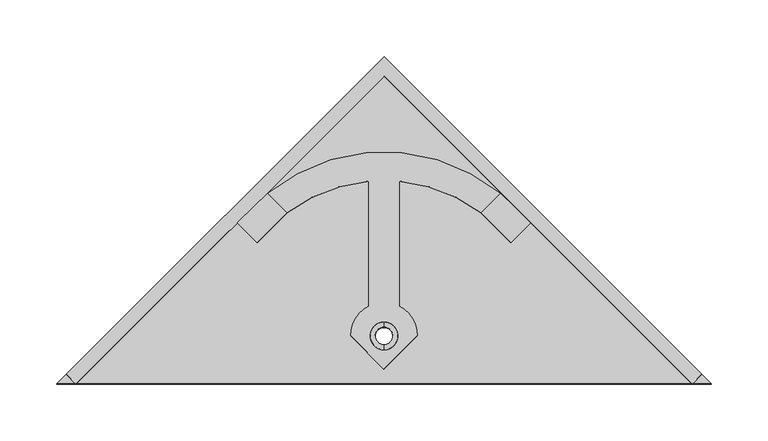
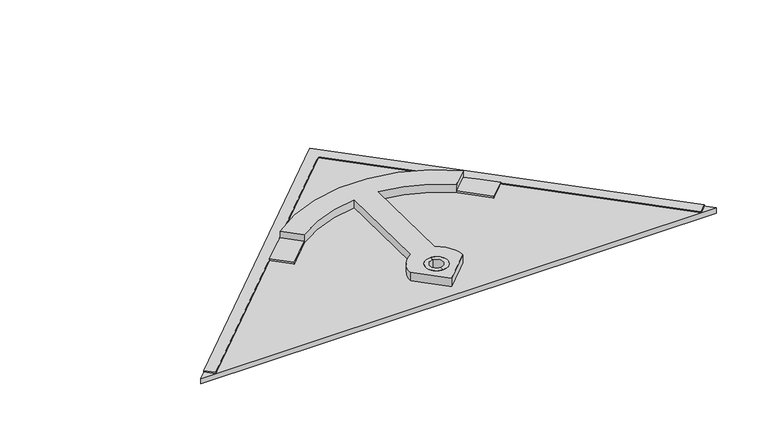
"""IFC4 building model written with IfcOpenShell, lengths in millimetres: proxy geometry, Roofing_Panels_SunStyle_Tuile_Basse-Petite : Tuile Basse Petite - Noir."""

from ifc_helpers import new_model, si_unit, point, frame, frame_2d, origin, place, context, project, spatial, polyline, circle_curve, trimmed, segment, composite_curve, outline, extrude, source, transform, mapped, element, save
from ifc_brep_helpers import plane_surface, cylinder_surface, revolved_surface, advanced_brep


def generic_models_441e44e2(model_context):
    return source(origin(), model_context, "Body", "SolidModel", [
        advanced_brep(
        [(0.0, 361.8961325, 20.2441668), (0.0, 377.2289335, 19.9873805), (0.0, 381.7283021, 19.9120273), (0.0, 357.3967639, 20.31952), (0.0, 361.6282103, 4.2464102), (0.0, 376.9610105, 3.9896239), (0.0, 357.1288413, 4.3217634), (0.0, 381.4603795, 3.9142707)],
        [
            (0, 1, circle_curve(frame((0.0, 369.562533, 20.1157737), z_axis=(0.0, -0.016745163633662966, -0.9998597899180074), x_axis=(0.0, 0.9998597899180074, -0.016745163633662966)), 7.6674755)),
            (1, 2),
            (2, 3, circle_curve(frame((0.0, 369.562533, 20.1157737), z_axis=(0.0, 0.016745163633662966, 0.9998597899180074), x_axis=(0.0, 0.9998597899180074, -0.016745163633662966)), 12.1674751)),
            (3, 0),
            (1, 0, circle_curve(frame((0.0, 369.562533, 20.1157737), z_axis=(0.0, -0.016745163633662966, -0.9998597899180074), x_axis=(0.0, 0.9998597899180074, -0.016745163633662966)), 7.6674755)),
            (3, 2, circle_curve(frame((0.0, 369.562533, 20.1157737), z_axis=(0.0, 0.016745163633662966, 0.9998597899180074), x_axis=(0.0, 0.9998597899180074, -0.016745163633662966)), 12.1674751)),
            (4, 5, circle_curve(frame((0.0, 369.2946104, 4.118017), z_axis=(0.0, -0.016745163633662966, -0.9998597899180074), x_axis=(0.0, 0.9998597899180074, -0.016745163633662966)), 7.6674751)),
            (5, 1),
            (0, 4),
            (5, 4, circle_curve(frame((0.0, 369.2946104, 4.118017), z_axis=(0.0, -0.016745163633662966, -0.9998597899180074), x_axis=(0.0, 0.9998597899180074, -0.016745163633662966)), 7.6674751)),
            (6, 7, circle_curve(frame((0.0, 369.2946104, 4.118017), z_axis=(0.0, -0.016745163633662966, -0.9998597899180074), x_axis=(0.0, 0.9998597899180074, -0.016745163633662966)), 12.1674751)),
            (7, 5),
            (4, 6),
            (7, 6, circle_curve(frame((0.0, 369.2946104, 4.118017), z_axis=(0.0, -0.016745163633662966, -0.9998597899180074), x_axis=(0.0, 0.9998597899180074, -0.016745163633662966)), 12.1674751)),
            (2, 7),
            (6, 3),
        ],
        [
            plane_surface(frame((0.0, 369.562533, 20.1157737), z_axis=(0.0, 0.016745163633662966, 0.9998597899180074), x_axis=(0.0, 0.9998597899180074, -0.016745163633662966))),
            revolved_surface(polyline([(0.0, 377.2289330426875, 19.987380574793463), (0.0, 376.96101042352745, 3.989623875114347)]), (0.0, 369.562533, 20.1157737), (0.0, 0.016745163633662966, 0.9998597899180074)),
            plane_surface(frame((0.0, 369.2946104, 4.118017), z_axis=(0.0, -0.016745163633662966, -0.9998597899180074), x_axis=(0.0, 0.9998597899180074, -0.016745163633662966))),
            cylinder_surface(frame((0.0, 369.562533, 20.1157737), z_axis=(0.0, 0.016745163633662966, 0.9998597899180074), x_axis=(0.0, 0.9998597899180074, -0.016745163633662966)), 12.1674751),
        ],
        [
            (0, [[1, 2, 3, 4]]),
            (0, [[5, -4, 6, -2]]),
            (1, [[7, 8, -1, 9]]),
            (1, [[10, -9, -5, -8]]),
            (2, [[11, 12, -7, 13]]),
            (2, [[14, -13, -10, -12]]),
            (3, [[-3, 15, -11, 16]]),
            (3, [[-6, -16, -14, -15]]),
        ],
    ),
        extrude(outline(polyline([(0.0, -11.9999999), (0.0, 0.0), (383.0016826, 0.0), (383.055387, 383.0016788), (395.0553869, 382.9999962), (395.0000001, -12.0), (0.0, -11.9999999)])), frame((270.8423962, 327.2499642, 10.8230016), z_axis=(0.0, 0.016745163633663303, 0.9998597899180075), x_axis=(-0.7071563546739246, 0.706958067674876, -0.011839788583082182)), (0.0, 0.0, 1.0), 1.5),
        extrude(outline(polyline([(995.0941908, 0.0), (995.1512303, -406.7858697), (588.3083171, 1e-07), (995.0941908, 0.0)]), holes=[composite_curve([segment(trimmed(circle_curve(frame_2d((821.5432581, -173.5748135)), 12.0), [point((813.0573819, -165.0901271))], [point((830.0291344, -182.0595))], True, "CARTESIAN"), True, "CONTINUOUS"), segment(trimmed(circle_curve(frame_2d((821.5432581, -173.5748135)), 12.0), [point((830.0291344, -182.0595))], [point((813.0573819, -165.0901271))], True, "CARTESIAN"), True, "CONTINUOUS")], self_intersect=False)]), frame((-703.686858, -88.6072499, 11.7867338), z_axis=(0.0, 0.01674516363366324, 0.9998597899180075), x_axis=(0.7071563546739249, 0.7069580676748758, -0.011839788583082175)), (0.0, 0.0, 1.0), 6.0),
        advanced_brep(
        [(-102.0275718, 494.9998575, 18.0150106), (-84.944396, 477.9190769, 18.3010712), (-13.3, 505.8109871, 17.8339511), (-13.3, 395.9341043, 19.6741155), (-29.3894281, 369.7299846, 20.1129693), (0.0, 340.3446773, 20.6051), (29.3894281, 369.7299846, 20.1129693), (13.3, 395.9341043, 19.6741155), (13.3, 505.8109871, 17.8339511), (84.944396, 477.9190769, 18.3010712), (102.0275718, 494.9998575, 18.0150106), (-12.0, 369.7299846, 20.1129693), (12.0, 369.7299846, 20.1129693), (-102.0275718, 494.8324058, 8.0164127), (102.0275718, 494.8324058, 8.0164127), (114.2509691, 483.797483, 8.2012202), (128.9467134, 469.1058594, 8.4472683), (111.2690438, 451.4306685, 8.7432838), (84.9431983, 477.7528228, 8.3024532), (13.3, 505.6435355, 7.8353532), (13.3, 395.7666527, 9.6755176), (29.3894281, 369.562533, 10.1143714), (0.0, 340.1772257, 10.6065021), (-29.3894281, 369.562533, 10.1143714), (-13.3, 395.7666527, 9.6755176), (-13.3, 505.6435355, 7.8353532), (-84.944396, 477.7516253, 8.3024733), (-111.2690438, 451.4306685, 8.7432838), (-128.9467134, 469.1058594, 8.4472683), (-114.2509691, 483.797483, 8.2012202), (-12.0, 369.562533, 10.1143714), (12.0, 369.562533, 10.1143714), (102.0275718, 494.8742688, 10.5160622), (-102.0275718, 494.8742688, 10.5160622), (128.9467134, 469.1477223, 10.9469178), (114.2509691, 483.8393459, 10.7008697), (84.944396, 477.7934882, 10.8021227), (111.2690438, 451.4725314, 11.2429333), (-128.9467134, 469.1477223, 10.9469178), (-111.2690438, 451.4725314, 11.2429333), (-84.9431983, 477.7946858, 10.8021027), (-114.2509691, 483.8393459, 10.7008697)],
        [
            (0, 1),
            (1, 2, circle_curve(frame((0.0, 365.7229584, 20.180077), z_axis=(0.0, -0.01674516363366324, -0.9998597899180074), x_axis=(1.0, 0.0, 0.0)), 140.737522)),
            (2, 3),
            (3, 4, circle_curve(frame((0.0, 369.7299846, 20.1129693), z_axis=(0.0, 0.01674516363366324, 0.9998597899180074), x_axis=(1.0, 0.0, 0.0)), 29.3894281)),
            (4, 5),
            (5, 6),
            (6, 7, circle_curve(frame((0.0, 369.7299846, 20.1129693), z_axis=(0.0, 0.01674516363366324, 0.9998597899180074), x_axis=(1.0, 0.0, 0.0)), 29.3894281)),
            (7, 8),
            (8, 9, circle_curve(frame((0.0, 365.7229584, 20.180077), z_axis=(0.0, -0.01674516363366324, -0.9998597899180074), x_axis=(1.0, 0.0, 0.0)), 140.737522)),
            (9, 10),
            (10, 0, circle_curve(frame((0.0, 369.7299846, 20.1129693), z_axis=(0.0, 0.01674516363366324, 0.9998597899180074), x_axis=(1.0, 0.0, 0.0)), 161.57527)),
            (11, 12, circle_curve(frame((0.0, 369.7299846, 20.1129693), z_axis=(0.0, -0.01674516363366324, -0.9998597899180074), x_axis=(1.0, 0.0, 0.0)), 12.0)),
            (12, 11, circle_curve(frame((0.0, 369.7299846, 20.1129693), z_axis=(0.0, -0.01674516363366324, -0.9998597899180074), x_axis=(1.0, 0.0, 0.0)), 12.0)),
            (13, 14, circle_curve(frame((0.0, 369.562533, 10.1143714), z_axis=(0.0, -0.01674516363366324, -0.9998597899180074), x_axis=(1.0, 0.0, 0.0)), 161.57527)),
            (14, 15, circle_curve(frame((0.0, 369.562533, 10.1143714), z_axis=(0.0, -0.01674516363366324, -0.9998597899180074), x_axis=(1.0, 0.0, 0.0)), 161.57527)),
            (15, 16),
            (16, 17),
            (17, 18),
            (18, 19, circle_curve(frame((0.0, 365.5555068, 10.1814791), z_axis=(0.0, 0.01674516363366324, 0.9998597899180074), x_axis=(1.0, 0.0, 0.0)), 140.737522)),
            (19, 20),
            (20, 21, circle_curve(frame((0.0, 369.562533, 10.1143714), z_axis=(0.0, -0.01674516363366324, -0.9998597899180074), x_axis=(1.0, 0.0, 0.0)), 29.3894281)),
            (21, 22),
            (22, 23),
            (23, 24, circle_curve(frame((0.0, 369.562533, 10.1143714), z_axis=(0.0, -0.01674516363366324, -0.9998597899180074), x_axis=(1.0, 0.0, 0.0)), 29.3894281)),
            (24, 25),
            (25, 26, circle_curve(frame((0.0, 365.5555068, 10.1814791), z_axis=(0.0, 0.01674516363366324, 0.9998597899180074), x_axis=(1.0, 0.0, 0.0)), 140.737522)),
            (26, 27),
            (27, 28),
            (28, 29),
            (29, 13, circle_curve(frame((0.0, 369.562533, 10.1143714), z_axis=(0.0, -0.01674516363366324, -0.9998597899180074), x_axis=(-1.0, 0.0, 0.0)), 161.57527)),
            (30, 31, circle_curve(frame((0.0, 369.562533, 10.1143714), z_axis=(0.0, 0.01674516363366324, 0.9998597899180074), x_axis=(1.0, 0.0, 0.0)), 12.0)),
            (31, 30, circle_curve(frame((0.0, 369.562533, 10.1143714), z_axis=(0.0, 0.01674516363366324, 0.9998597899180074), x_axis=(1.0, 0.0, 0.0)), 12.0)),
            (2, 25),
            (24, 3),
            (23, 4),
            (22, 5),
            (21, 6),
            (20, 7),
            (19, 8),
            (10, 32),
            (32, 14),
            (13, 33),
            (33, 0),
            (11, 30),
            (31, 12),
            (34, 35),
            (35, 32, circle_curve(frame((0.0, 369.6043959, 12.6140208), z_axis=(0.0, 0.01674516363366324, 0.9998597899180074), x_axis=(1.0, 0.0, 0.0)), 161.57527)),
            (32, 36),
            (36, 37),
            (37, 34),
            (38, 39),
            (39, 40),
            (40, 33),
            (33, 41, circle_curve(frame((0.0, 369.6043959, 12.6140208), z_axis=(0.0, 0.01674516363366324, 0.9998597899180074), x_axis=(-1.0, 0.0, 0.0)), 161.57527)),
            (41, 38),
            (34, 16),
            (15, 35),
            (37, 17),
            (36, 18),
            (38, 28),
            (27, 39),
            (26, 40),
            (29, 41),
            (40, 1),
            (9, 36),
        ],
        [
            plane_surface(frame((-102.0275718, 494.9998575, 18.0150106), z_axis=(0.0, 0.01674516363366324, 0.9998597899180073), x_axis=(0.7071067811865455, -0.7070076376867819, 0.011840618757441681))),
            plane_surface(frame((-102.0275718, 494.8324058, 8.0164127), z_axis=(0.0, -0.01674516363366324, -0.9998597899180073), x_axis=(-0.7071067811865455, 0.7070076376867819, -0.011840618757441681))),
            plane_surface(frame((-13.3, 505.8109871, 17.8339511), z_axis=(-1.0000000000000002, 0.0, 0.0), x_axis=(0.0, -0.01674516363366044, -0.9998597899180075))),
            cylinder_surface(frame((0.0, 369.562533, 10.1143714), z_axis=(0.0, 0.01674516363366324, 0.9998597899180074), x_axis=(1.0, 0.0, 0.0)), 29.3894281),
            plane_surface(frame((-29.3894281, 369.7299846, 20.1129693), z_axis=(-0.7071067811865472, -0.7070076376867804, 0.011840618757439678), x_axis=(0.0, -0.016745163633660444, -0.9998597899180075))),
            plane_surface(frame((0.0, 340.3446773, 20.6051), z_axis=(0.7071067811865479, -0.7070076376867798, 0.011840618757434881), x_axis=(0.0, -0.01674516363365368, -0.9998597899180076))),
            plane_surface(frame((13.3, 395.9341043, 19.6741155), z_axis=(1.0000000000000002, 0.0, 0.0), x_axis=(0.0, -0.016745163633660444, -0.9998597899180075))),
            cylinder_surface(frame((0.0, 369.562533, 10.1143714), z_axis=(0.0, 0.01674516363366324, 0.9998597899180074), x_axis=(1.0, 0.0, 0.0)), 161.57527),
            revolved_surface(polyline([(12.0, 369.562533, 10.1143714), (12.0, 369.72998463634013, 20.112969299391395)]), (0.0, 369.562533, 10.1143714), (0.0, -0.01674516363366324, -0.9998597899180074)),
            plane_surface(frame((128.9467134, 469.1477223, 10.9469178), z_axis=(0.0, 0.01674516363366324, 0.9998597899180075), x_axis=(-0.7071563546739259, 0.7069580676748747, -0.011839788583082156))),
            plane_surface(frame((128.9467134, 469.1477223, 10.9469178), z_axis=(0.7070572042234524, 0.7070572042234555, -0.011841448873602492), x_axis=(0.0, -0.016745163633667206, -0.9998597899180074))),
            plane_surface(frame((111.2690438, 451.4725314, 11.2429333), z_axis=(0.7071067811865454, -0.7070076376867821, 0.011840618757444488), x_axis=(0.0, -0.016745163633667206, -0.9998597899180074))),
            plane_surface(frame((84.9431983, 477.7946858, 10.8021027), z_axis=(-0.7071067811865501, -0.7070076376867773, 0.011840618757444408), x_axis=(0.0, -0.016745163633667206, -0.9998597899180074))),
            plane_surface(frame((-128.9467134, 469.1477223, 10.9469178), z_axis=(-0.7071067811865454, -0.7070076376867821, 0.011840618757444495), x_axis=(0.0, -0.016745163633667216, -0.9998597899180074))),
            plane_surface(frame((-111.2690438, 451.4725314, 11.2429333), z_axis=(0.7071067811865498, -0.7070076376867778, 0.011840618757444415), x_axis=(0.0, -0.016745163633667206, -0.9998597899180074))),
            cylinder_surface(frame((0.0, 369.562533, 10.1143714), z_axis=(0.0, 0.01674516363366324, 0.9998597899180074), x_axis=(-1.0, 0.0, 0.0)), 161.57527),
            plane_surface(frame((-114.2509691, 483.8393459, 10.7008697), z_axis=(-0.7070572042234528, 0.7070572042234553, -0.011841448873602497), x_axis=(0.0, -0.016745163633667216, -0.9998597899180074))),
            plane_surface(frame((-102.0275718, 494.9998575, 18.0150106), z_axis=(-0.7071067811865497, -0.7070076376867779, 0.01184061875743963), x_axis=(0.0, -0.01674516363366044, -0.9998597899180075))),
            plane_surface(frame((84.944396, 477.9190769, 18.3010712), z_axis=(0.7071067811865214, -0.7070076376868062, 0.011840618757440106), x_axis=(0.0, -0.01674516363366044, -0.9998597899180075))),
            revolved_surface(polyline([(140.737522, 365.5555068, 10.1814791), (140.737522, 365.72295843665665, 20.180077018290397)]), (0.0, 365.5555068, 10.1814791), (0.0, -0.01674516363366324, -0.9998597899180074)),
            revolved_surface(polyline([(140.737522, 365.55550679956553, 10.181479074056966), (140.737522, 365.72295843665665, 20.180077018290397)]), (0.0, 365.5555068, 10.1814791), (0.0, -0.01674516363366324, -0.9998597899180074)),
        ],
        [
            (0, [[1, 2, 3, 4, 5, 6, 7, 8, 9, 10, 11], [12, 13]]),
            (1, [[14, 15, 16, 17, 18, 19, 20, 21, 22, 23, 24, 25, 26, 27, 28, 29, 30], [31, 32]]),
            (2, [[-3, 33, -25, 34]]),
            (3, [[-4, -34, -24, 35]]),
            (4, [[-5, -35, -23, 36]]),
            (5, [[-6, -36, -22, 37]]),
            (3, [[-7, -37, -21, 38]]),
            (6, [[-8, -38, -20, 39]]),
            (7, [[-11, 40, 41, -14, 42, 43]]),
            (8, [[-12, 44, -32, 45]]),
            (8, [[-13, -45, -31, -44]]),
            (9, [[46, 47, 48, 49, 50]]),
            (9, [[51, 52, 53, 54, 55]]),
            (10, [[-46, 56, -16, 57]]),
            (11, [[-50, 58, -17, -56]]),
            (7, [[-47, -57, -15, -41]]),
            (12, [[-49, 59, -18, -58]]),
            (13, [[-51, 60, -28, 61]]),
            (14, [[-52, -61, -27, 62]]),
            (15, [[-54, -42, -30, 63]]),
            (16, [[-55, -63, -29, -60]]),
            (17, [[-1, -43, -53, 64]]),
            (18, [[-10, 65, -48, -40]]),
            (19, [[-2, -64, -62, -26, -33]]),
            (20, [[-9, -39, -19, -59, -65]]),
        ],
    ),
    ])


if __name__ == "__main__":
    model = new_model("IFC4")
    model_context = context("Model", 3, world=origin())
    ifc_project = project(units=[si_unit("LENGTHUNIT", "METRE", prefix="MILLI")], contexts=[model_context])
    site = spatial("IfcSite", under=ifc_project)
    building = spatial("IfcBuilding", under=site)
    placement = place(None, origin())
    generic_models_shape = generic_models_441e44e2(model_context)
    element("IfcBuildingElementProxy", 1, Name="Roofing_Panels_SunStyle_Tuile_Basse-Petite : Tuile Basse Petite - Noir", ObjectType="Roofing_Panels_SunStyle_Tuile_Basse-Petite : Tuile Basse Petite - Noir", at=placement, inside=building, context=model_context, shape_type="MappedRepresentation", body=[
        mapped(generic_models_shape, transform((0.0, 0.0, 0.0), x_axis=(1.0, 0.0, 0.0), y_axis=(0.0, 1.0, 0.0), z_axis=(0.0, 0.0, 1.0))),
    ])
    save(model, "model.ifc")
